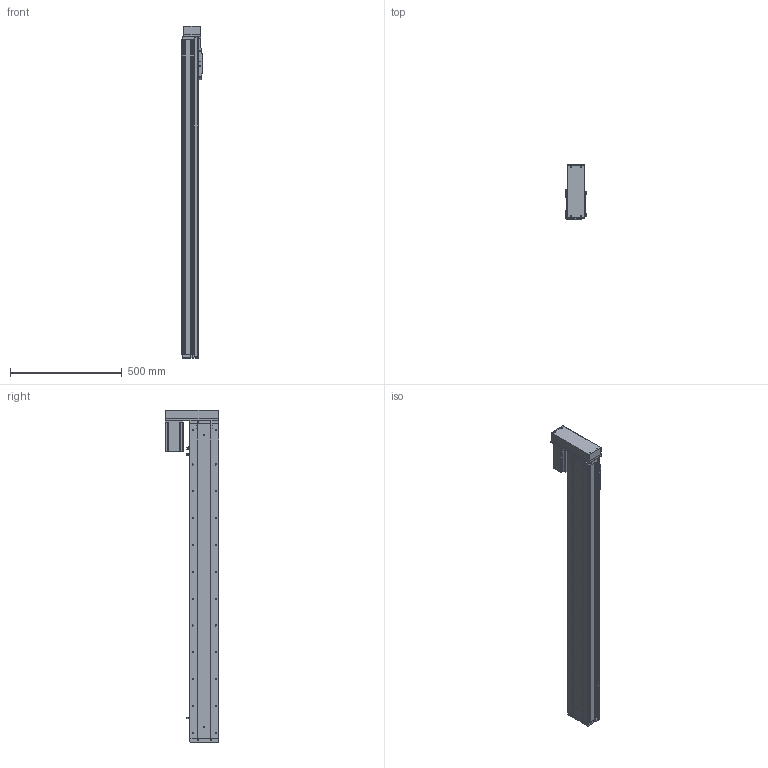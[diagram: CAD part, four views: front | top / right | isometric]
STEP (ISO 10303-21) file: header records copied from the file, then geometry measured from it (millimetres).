
FILE_DESCRIPTION (( 'STEP AP214' ), '1' );
FILE_NAME ('KSD130S-P2010-ML-CR-S1200.STEP', '2019-09-24T06:33:41', ( '微软用户' ), ( '微软中国' ), 'SwSTEP 2.0', 'SolidWorks 2014', '' );
FILE_SCHEMA (( 'AUTOMOTIVE_DESIGN' ));
Length unit declared in the file: millimetre
Products named in the file (14): 130宽模组马达安装板连板左右折丝杆; 感应片130宽全封闭; U倰嫖萇EEㄜSX672; 130遵裔啣揤啣1; 130宽盖板全封闭-1200行程; 130宽滚珠螺姆安装板1防护罩; 130宽滚珠螺姆安装板1; 130宽侧板全封闭-1200行程; 130宽全封闭马达安装板丝杠; 130宽全封闭端盖丝杠; 130宽底板全封闭丝杠-1200行程; KSD130S-P2010-ML-CR-S1200; 130宽模组保护罩左右折; 台达ECMA－C20807AS伺服电机
Assembly tree (17 placements, depth 2):
  KSD130S-P2010-ML-CR-S1200
    130宽底板全封闭丝杠-1200行程
    130宽全封闭端盖丝杠
    130宽全封闭马达安装板丝杠
    130宽侧板全封闭-1200行程  x2
    130宽滚珠螺姆安装板1
    130宽滚珠螺姆安装板1防护罩
    130宽盖板全封闭-1200行程
    130遵裔啣揤啣1  x2
    U倰嫖萇EEㄜSX672  x3
    感应片130宽全封闭
    130宽模组马达安装板连板左右折丝杆
    台达ECMA－C20807AS伺服电机
    130宽模组保护罩左右折
Bounding box: 90 x 240.37 x 1484.5 mm (x, y, z)
Volume: 5066176 mm3; surface area: 1668479.8 mm2
Topology: 18 solids, 18 shells, 1598 faces, 4332 edges, 2695 vertices
Faces by surface type: cylinder 720, plane 611, cone 267
Entity records: 48966 total; most frequent: DIRECTION 7471, CARTESIAN_POINT 7267, ORIENTED_EDGE 6838, EDGE_CURVE 3419, AXIS2_PLACEMENT_3D 2715, VERTEX_POINT 2225, VECTOR 2041, LINE 2041
